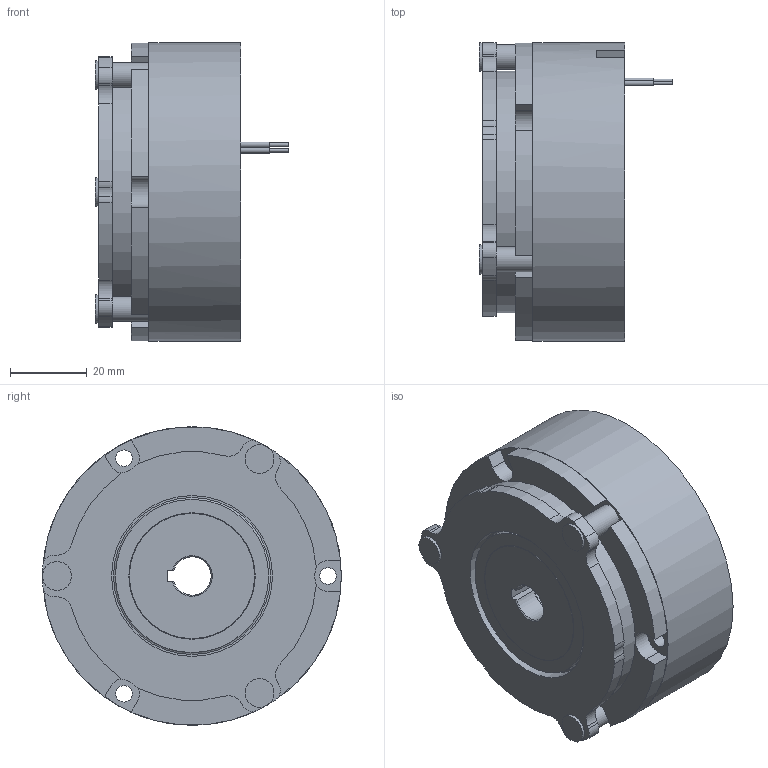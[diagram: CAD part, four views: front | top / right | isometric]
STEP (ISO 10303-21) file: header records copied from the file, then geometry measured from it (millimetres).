
FILE_DESCRIPTION (( 'STEP AP214' ), '1' );
FILE_NAME ('KS_10108A00-_Idx_.17.STEP', '2020-03-24T07:11:14', ( '' ), ( '' ), 'SwSTEP 2.0', 'SolidWorks 2018', '' );
FILE_SCHEMA (( 'AUTOMOTIVE_DESIGN' ));
Length unit declared in the file: millimetre
Products named in the file (1): KS_10108A00-_Idx_.17
Bounding box: 50.5 x 78.02 x 78 mm (x, y, z)
Volume: 148756.6 mm3; surface area: 32442.8 mm2
Topology: 1 solids, 1 shells, 123 faces, 307 edges, 204 vertices
Faces by surface type: cylinder 68, plane 47, cone 6, bspline 1, torus 1
Full cylindrical faces by diameter (mm): 0.9 x2, 1.4 x2, 3.3 x3, 4.3 x3, 6.5 x3, 7.53 x3, 22 x2, 28.4 x1, 40 x1, 41 x1, 42 x1, 63 x1, 78 x1
Entity records: 3626 total; most frequent: DIRECTION 660, CARTESIAN_POINT 626, ORIENTED_EDGE 536, AXIS2_PLACEMENT_3D 273, EDGE_CURVE 268, VERTEX_POINT 195, EDGE_LOOP 185, CIRCLE 150
